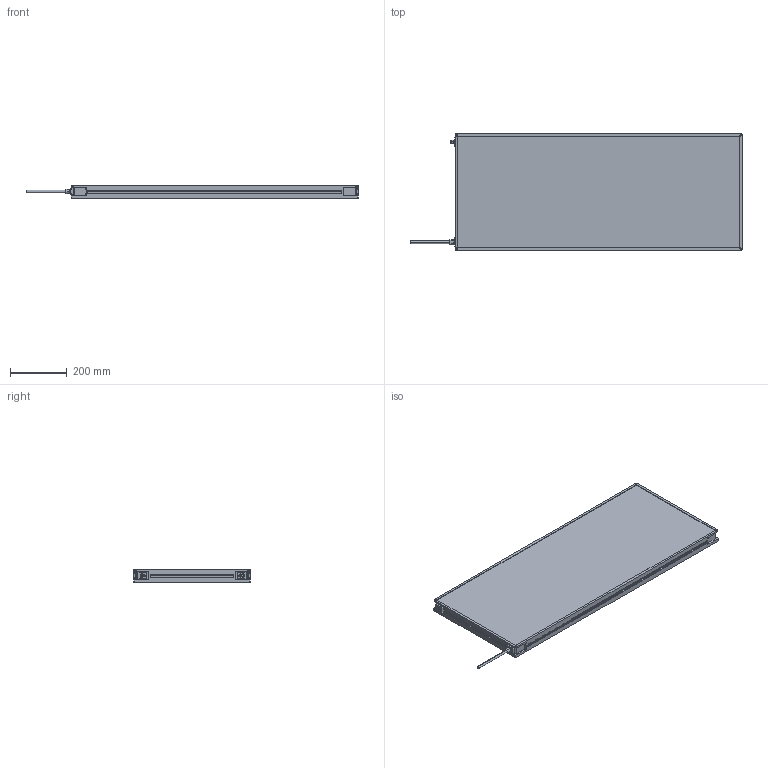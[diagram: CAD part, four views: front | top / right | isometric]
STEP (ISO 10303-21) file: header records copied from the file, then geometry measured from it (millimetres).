
FILE_DESCRIPTION (( 'STEP AP214' ), '1' );
FILE_NAME ('MBACK-xxxx-xxx-M1A2_CLIENT400x1004.STEP', '2022-04-01T11:35:39', ( '' ), ( '' ), 'SwSTEP 2.0', 'SolidWorks 2020', '' );
FILE_SCHEMA (( 'AUTOMOTIVE_DESIGN' ));
Length unit declared in the file: millimetre
Products named in the file (1): MBACK-xxxx-xxx-M1A2_CLIENT400x1004
Bounding box: 1167.4 x 408 x 45.5 mm (x, y, z)
Volume: 17104273 mm3; surface area: 1016517 mm2
Topology: 1 solids, 1 shells, 470 faces, 1210 edges, 804 vertices
Faces by surface type: plane 265, cylinder 117, bspline 80, cone 8
Entity records: 18046 total; most frequent: CARTESIAN_POINT 6837, ORIENTED_EDGE 2420, DIRECTION 2082, EDGE_CURVE 1210, VERTEX_POINT 804, VECTOR 800, LINE 800, AXIS2_PLACEMENT_3D 641
